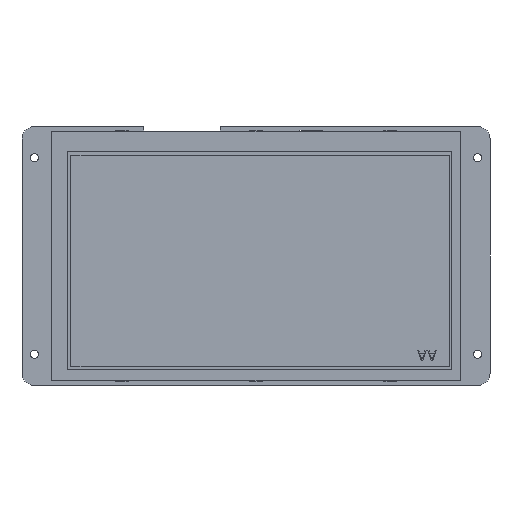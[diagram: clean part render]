
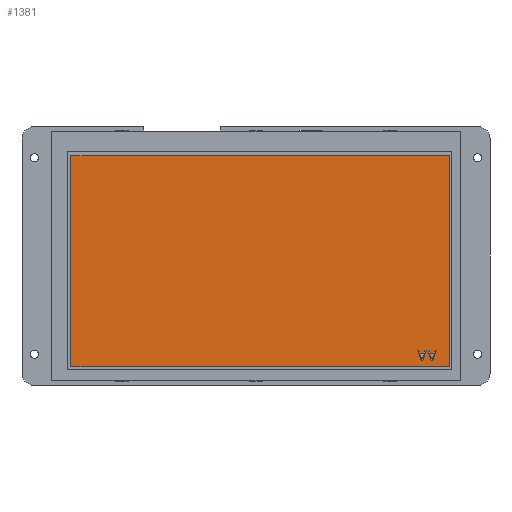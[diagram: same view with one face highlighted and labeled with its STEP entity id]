
A CAD part, front view. The second image highlights one B-rep face of the part: STEP entity #1381.
In plain terms, the highlighted planar face has unit normal (0, -1, 0) as drawn and (0, 1, 0) by its records, which use the part's own axes.
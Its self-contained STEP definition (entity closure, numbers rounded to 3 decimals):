
#605=DIRECTION('',(0.,0.,1.));
#606=VECTOR('',#605,85.92);
#607=CARTESIAN_POINT('',(-78.77,3.1,-45.11));
#608=LINE('',#607,#606);
#609=DIRECTION('',(-1.,0.,0.));
#610=VECTOR('',#609,154.08);
#611=CARTESIAN_POINT('',(75.31,3.1,-45.11));
#612=LINE('',#611,#610);
#613=DIRECTION('',(0.,0.,-1.));
#614=VECTOR('',#613,85.92);
#615=CARTESIAN_POINT('',(75.31,3.1,40.81));
#616=LINE('',#615,#614);
#617=DIRECTION('',(1.,0.,0.));
#618=VECTOR('',#617,154.08);
#619=CARTESIAN_POINT('',(-78.77,3.1,40.81));
#620=LINE('',#619,#618);
#621=DIRECTION('',(0.316,0.,0.949));
#622=VECTOR('',#621,4.364);
#623=CARTESIAN_POINT('',(-71.333,3.1,-42.598));
#624=LINE('',#623,#622);
#625=DIRECTION('',(1.,0.,0.));
#626=VECTOR('',#625,0.69);
#627=CARTESIAN_POINT('',(-72.023,3.1,-42.598));
#628=LINE('',#627,#626);
#629=DIRECTION('',(0.316,0.,-0.949));
#630=VECTOR('',#629,4.364);
#631=CARTESIAN_POINT('',(-73.403,3.1,-38.458));
#632=LINE('',#631,#630);
#633=DIRECTION('',(-1.,0.,0.));
#634=VECTOR('',#633,0.518);
#635=CARTESIAN_POINT('',(-72.885,3.1,-38.458));
#636=LINE('',#635,#634);
#637=DIRECTION('',(-0.31,0.,0.951));
#638=VECTOR('',#637,1.112);
#639=CARTESIAN_POINT('',(-72.54,3.1,-39.515));
#640=LINE('',#639,#638);
#641=DIRECTION('',(-1.,0.,0.));
#642=VECTOR('',#641,1.725);
#643=CARTESIAN_POINT('',(-70.815,3.1,-39.515));
#644=LINE('',#643,#642);
#645=DIRECTION('',(-0.31,0.,-0.951));
#646=VECTOR('',#645,1.112);
#647=CARTESIAN_POINT('',(-70.47,3.1,-38.458));
#648=LINE('',#647,#646);
#649=DIRECTION('',(-1.,0.,0.));
#650=VECTOR('',#649,0.518);
#651=CARTESIAN_POINT('',(-69.953,3.1,-38.458));
#652=LINE('',#651,#650);
#665=DIRECTION('',(0.316,0.,0.949));
#666=VECTOR('',#665,4.364);
#667=CARTESIAN_POINT('',(-67.193,3.1,-42.598));
#668=LINE('',#667,#666);
#669=DIRECTION('',(1.,0.,0.));
#670=VECTOR('',#669,0.69);
#671=CARTESIAN_POINT('',(-67.883,3.1,-42.598));
#672=LINE('',#671,#670);
#673=DIRECTION('',(0.316,0.,-0.949));
#674=VECTOR('',#673,4.364);
#675=CARTESIAN_POINT('',(-69.263,3.1,-38.458));
#676=LINE('',#675,#674);
#677=DIRECTION('',(-1.,0.,0.));
#678=VECTOR('',#677,0.518);
#679=CARTESIAN_POINT('',(-68.745,3.1,-38.458));
#680=LINE('',#679,#678);
#681=DIRECTION('',(-0.31,0.,0.951));
#682=VECTOR('',#681,1.112);
#683=CARTESIAN_POINT('',(-68.4,3.1,-39.515));
#684=LINE('',#683,#682);
#685=DIRECTION('',(-1.,0.,0.));
#686=VECTOR('',#685,1.725);
#687=CARTESIAN_POINT('',(-66.675,3.1,-39.515));
#688=LINE('',#687,#686);
#689=DIRECTION('',(-0.31,0.,-0.951));
#690=VECTOR('',#689,1.112);
#691=CARTESIAN_POINT('',(-66.33,3.1,-38.458));
#692=LINE('',#691,#690);
#693=DIRECTION('',(-1.,0.,0.));
#694=VECTOR('',#693,0.518);
#695=CARTESIAN_POINT('',(-65.813,3.1,-38.458));
#696=LINE('',#695,#694);
#901=CARTESIAN_POINT('',(-78.77,3.1,-45.11));
#902=CARTESIAN_POINT('',(-78.77,3.1,40.81));
#903=VERTEX_POINT('',#901);
#904=VERTEX_POINT('',#902);
#905=CARTESIAN_POINT('',(75.31,3.1,40.81));
#906=VERTEX_POINT('',#905);
#907=CARTESIAN_POINT('',(75.31,3.1,-45.11));
#908=VERTEX_POINT('',#907);
#921=CARTESIAN_POINT('',(-71.333,3.1,-42.598));
#922=CARTESIAN_POINT('',(-69.953,3.1,-38.458));
#923=VERTEX_POINT('',#921);
#924=VERTEX_POINT('',#922);
#925=CARTESIAN_POINT('',(-70.47,3.1,-38.458));
#926=VERTEX_POINT('',#925);
#927=CARTESIAN_POINT('',(-70.815,3.1,-39.515));
#928=VERTEX_POINT('',#927);
#929=CARTESIAN_POINT('',(-72.54,3.1,-39.515));
#930=VERTEX_POINT('',#929);
#931=CARTESIAN_POINT('',(-72.885,3.1,-38.458));
#932=VERTEX_POINT('',#931);
#933=CARTESIAN_POINT('',(-73.403,3.1,-38.458));
#934=VERTEX_POINT('',#933);
#935=CARTESIAN_POINT('',(-72.023,3.1,-42.598));
#936=VERTEX_POINT('',#935);
#943=CARTESIAN_POINT('',(-67.193,3.1,-42.598));
#944=CARTESIAN_POINT('',(-65.813,3.1,-38.458));
#945=VERTEX_POINT('',#943);
#946=VERTEX_POINT('',#944);
#947=CARTESIAN_POINT('',(-66.33,3.1,-38.458));
#948=VERTEX_POINT('',#947);
#949=CARTESIAN_POINT('',(-66.675,3.1,-39.515));
#950=VERTEX_POINT('',#949);
#951=CARTESIAN_POINT('',(-68.4,3.1,-39.515));
#952=VERTEX_POINT('',#951);
#953=CARTESIAN_POINT('',(-68.745,3.1,-38.458));
#954=VERTEX_POINT('',#953);
#955=CARTESIAN_POINT('',(-69.263,3.1,-38.458));
#956=VERTEX_POINT('',#955);
#957=CARTESIAN_POINT('',(-67.883,3.1,-42.598));
#958=VERTEX_POINT('',#957);
#1334=CARTESIAN_POINT('',(0.,3.1,0.));
#1335=DIRECTION('',(0.,1.,0.));
#1336=DIRECTION('',(1.,0.,0.));
#1337=AXIS2_PLACEMENT_3D('',#1334,#1335,#1336);
#1338=PLANE('',#1337);
#1339=ORIENTED_EDGE('',*,*,#1285,.F.);
#1340=ORIENTED_EDGE('',*,*,#1302,.F.);
#1341=ORIENTED_EDGE('',*,*,#1314,.F.);
#1342=ORIENTED_EDGE('',*,*,#1327,.F.);
#1343=EDGE_LOOP('',(#1339,#1340,#1341,#1342));
#1344=FACE_OUTER_BOUND('',#1343,.F.);
#1346=ORIENTED_EDGE('',*,*,#1345,.F.);
#1348=ORIENTED_EDGE('',*,*,#1347,.F.);
#1350=ORIENTED_EDGE('',*,*,#1349,.F.);
#1352=ORIENTED_EDGE('',*,*,#1351,.F.);
#1354=ORIENTED_EDGE('',*,*,#1353,.F.);
#1356=ORIENTED_EDGE('',*,*,#1355,.F.);
#1358=ORIENTED_EDGE('',*,*,#1357,.F.);
#1360=ORIENTED_EDGE('',*,*,#1359,.F.);
#1361=EDGE_LOOP('',(#1346,#1348,#1350,#1352,#1354,#1356,#1358,#1360));
#1362=FACE_BOUND('',#1361,.F.);
#1364=ORIENTED_EDGE('',*,*,#1363,.F.);
#1366=ORIENTED_EDGE('',*,*,#1365,.F.);
#1368=ORIENTED_EDGE('',*,*,#1367,.F.);
#1370=ORIENTED_EDGE('',*,*,#1369,.F.);
#1372=ORIENTED_EDGE('',*,*,#1371,.F.);
#1374=ORIENTED_EDGE('',*,*,#1373,.F.);
#1376=ORIENTED_EDGE('',*,*,#1375,.F.);
#1378=ORIENTED_EDGE('',*,*,#1377,.F.);
#1379=EDGE_LOOP('',(#1364,#1366,#1368,#1370,#1372,#1374,#1376,#1378));
#1380=FACE_BOUND('',#1379,.F.);
#1285=EDGE_CURVE('',#903,#904,#608,.T.);
#1302=EDGE_CURVE('',#908,#903,#612,.T.);
#1314=EDGE_CURVE('',#906,#908,#616,.T.);
#1327=EDGE_CURVE('',#904,#906,#620,.T.);
#1345=EDGE_CURVE('',#923,#924,#624,.T.);
#1347=EDGE_CURVE('',#936,#923,#628,.T.);
#1349=EDGE_CURVE('',#934,#936,#632,.T.);
#1351=EDGE_CURVE('',#932,#934,#636,.T.);
#1353=EDGE_CURVE('',#930,#932,#640,.T.);
#1355=EDGE_CURVE('',#928,#930,#644,.T.);
#1357=EDGE_CURVE('',#926,#928,#648,.T.);
#1359=EDGE_CURVE('',#924,#926,#652,.T.);
#1363=EDGE_CURVE('',#945,#946,#668,.T.);
#1365=EDGE_CURVE('',#958,#945,#672,.T.);
#1367=EDGE_CURVE('',#956,#958,#676,.T.);
#1369=EDGE_CURVE('',#954,#956,#680,.T.);
#1371=EDGE_CURVE('',#952,#954,#684,.T.);
#1373=EDGE_CURVE('',#950,#952,#688,.T.);
#1375=EDGE_CURVE('',#948,#950,#692,.T.);
#1377=EDGE_CURVE('',#946,#948,#696,.T.);
#1381=ADVANCED_FACE('',(#1344,#1362,#1380),#1338,.T.);
